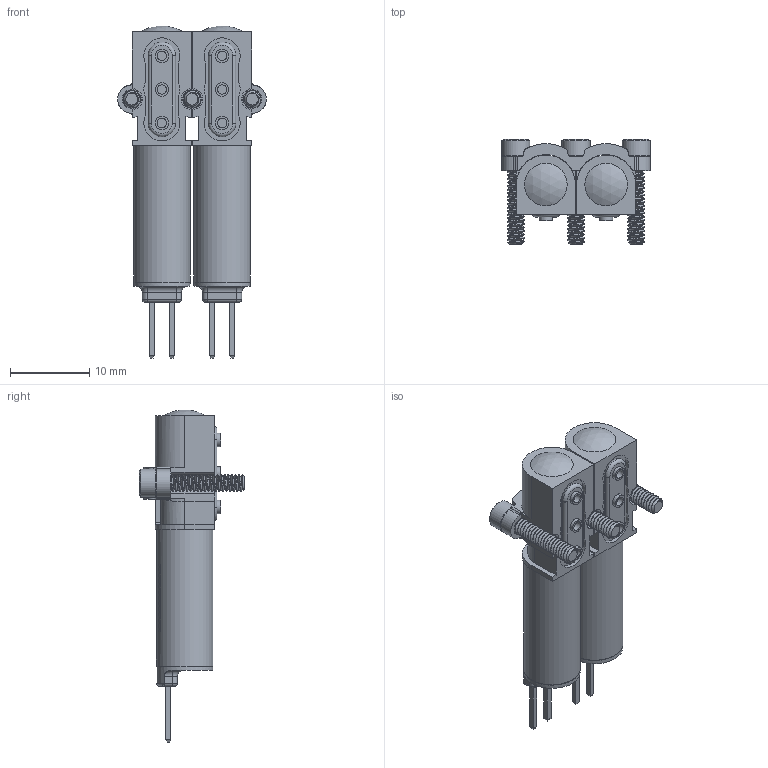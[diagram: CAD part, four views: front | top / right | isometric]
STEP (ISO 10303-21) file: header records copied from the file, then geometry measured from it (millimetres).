
FILE_DESCRIPTION (( 'STEP AP214' ), '1' );
FILE_NAME ('2X HDI-FMT.STEP', '2024-06-18T14:36:37', ( '' ), ( '' ), 'SwSTEP 2.0', 'SolidWorks 2023', '' );
FILE_SCHEMA (( 'AUTOMOTIVE_DESIGN' ));
Length unit declared in the file: inch
Products named in the file (4): 3X SCREW BRACKET^2X HDI-FMT; SOV^2X HDI-FMT; SHCS^2X HDI-FMT; 2X HDI-FMT
Assembly tree (6 placements, depth 2):
  2X HDI-FMT
    SOV^2X HDI-FMT  x2
    3X SCREW BRACKET^2X HDI-FMT
    SHCS^2X HDI-FMT  x3
Bounding box: 18.8 x 13.3 x 41.95 mm (x, y, z)
Volume: 3013.8 mm3; surface area: 3064 mm2
Topology: 8 solids, 8 shells, 1397 faces, 3728 edges, 2457 vertices
Faces by surface type: bspline 592, plane 536, cylinder 222, cone 27, torus 18, sphere 2
Full cylindrical faces by diameter (mm): 1.194 x6, 1.702 x12, 2.388 x3, 3.556 x3, 7.087 x2, 7.137 x4
Entity records: 30169 total; most frequent: CARTESIAN_POINT 14837, ORIENTED_EDGE 3810, DIRECTION 1975, EDGE_CURVE 1905, VERTEX_POINT 1269, B_SPLINE_CURVE_WITH_KNOTS 1044, EDGE_LOOP 802, FACE_OUTER_BOUND 733
